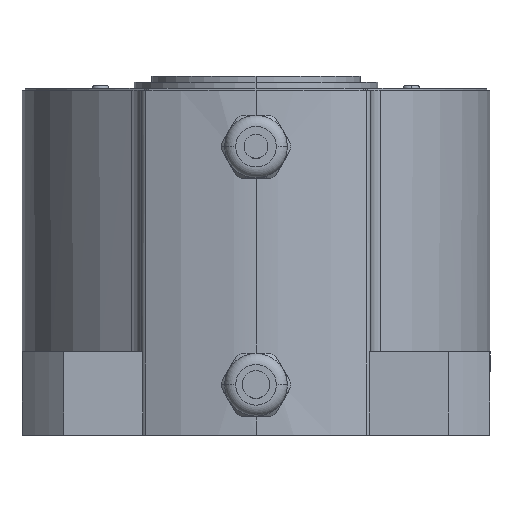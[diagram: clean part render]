
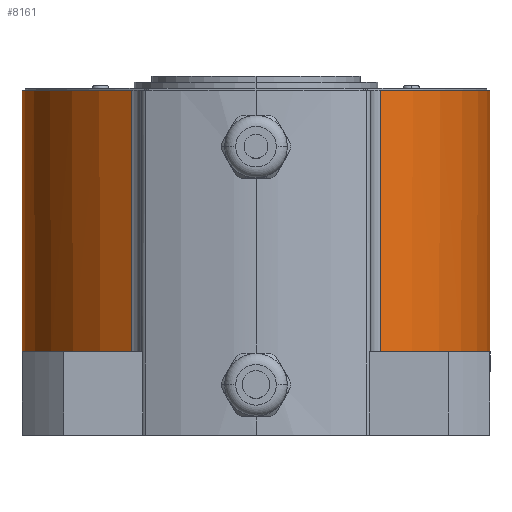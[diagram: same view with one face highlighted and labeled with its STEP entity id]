
A CAD part, top view. The second image highlights one B-rep face of the part: STEP entity #8161.
In plain terms, the highlighted cylindrical face has radius 56 mm (diameter 112 mm), a partial arc.
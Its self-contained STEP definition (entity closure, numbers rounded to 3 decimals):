
#259 = EDGE_CURVE ( 'NONE', #9772, #3744, #10680, .T. ) ;
#390 = DIRECTION ( 'NONE',  ( 0., -1., 0. ) ) ;
#748 = AXIS2_PLACEMENT_3D ( 'NONE', #9895, #11743, #20223 ) ;
#983 = DIRECTION ( 'NONE',  ( 0., 1., 0. ) ) ;
#2053 = DIRECTION ( 'NONE',  ( 0., 0., 1. ) ) ;
#3116 = ORIENTED_EDGE ( 'NONE', *, *, #7600, .T. ) ;
#3310 = DIRECTION ( 'NONE',  ( 0., 0., 1. ) ) ;
#3744 = VERTEX_POINT ( 'NONE', #19817 ) ;
#3971 = CARTESIAN_POINT ( 'NONE',  ( 29.836, 0., 47.39 ) ) ;
#4008 = ORIENTED_EDGE ( 'NONE', *, *, #16070, .T. ) ;
#5143 = AXIS2_PLACEMENT_3D ( 'NONE', #10750, #17754, #2053 ) ;
#5433 = CARTESIAN_POINT ( 'NONE',  ( -29.836, -62.5, 47.39 ) ) ;
#6477 = FACE_OUTER_BOUND ( 'NONE', #11400, .T. ) ;
#7016 = AXIS2_PLACEMENT_3D ( 'NONE', #8637, #21020, #21131 ) ;
#7600 = EDGE_CURVE ( 'NONE', #7922, #19711, #21225, .T. ) ;
#7875 = CARTESIAN_POINT ( 'NONE',  ( 56., -62.5, 0. ) ) ;
#7922 = VERTEX_POINT ( 'NONE', #12324 ) ;
#8059 = EDGE_CURVE ( 'NONE', #9772, #15572, #19419, .T. ) ;
#8161 = ADVANCED_FACE ( 'NONE', ( #6477 ), #10551, .T. ) ;
#8637 = CARTESIAN_POINT ( 'NONE',  ( 0., -62.5, 0. ) ) ;
#8670 = CARTESIAN_POINT ( 'NONE',  ( 0., -62.5, 0. ) ) ;
#9307 = DIRECTION ( 'NONE',  ( 0., 1., 0. ) ) ;
#9772 = VERTEX_POINT ( 'NONE', #3971 ) ;
#9895 = CARTESIAN_POINT ( 'NONE',  ( 0., -62.5, 0. ) ) ;
#10049 = EDGE_CURVE ( 'NONE', #13858, #15572, #15736, .T. ) ;
#10351 = CARTESIAN_POINT ( 'NONE',  ( -29.836, -62.5, 47.39 ) ) ;
#10369 = CARTESIAN_POINT ( 'NONE',  ( 0., -62.5, 0. ) ) ;
#10551 = CYLINDRICAL_SURFACE ( 'NONE', #748, 56. ) ;
#10589 = ORIENTED_EDGE ( 'NONE', *, *, #18576, .T. ) ;
#10680 = LINE ( 'NONE', #16178, #16938 ) ;
#10750 = CARTESIAN_POINT ( 'NONE',  ( 0., -62.5, 0. ) ) ;
#11137 = CIRCLE ( 'NONE', #21735, 56. ) ;
#11400 = EDGE_LOOP ( 'NONE', ( #16820, #17814, #12812, #4008, #3116, #10589, #21086 ) ) ;
#11743 = DIRECTION ( 'NONE',  ( 0., 1., 0. ) ) ;
#12324 = CARTESIAN_POINT ( 'NONE',  ( 0., -62.5, -56. ) ) ;
#12500 = CIRCLE ( 'NONE', #7016, 56. ) ;
#12812 = ORIENTED_EDGE ( 'NONE', *, *, #13832, .T. ) ;
#13832 = EDGE_CURVE ( 'NONE', #3744, #14643, #12500, .T. ) ;
#13858 = VERTEX_POINT ( 'NONE', #10351 ) ;
#13928 = AXIS2_PLACEMENT_3D ( 'NONE', #16216, #983, #18063 ) ;
#14643 = VERTEX_POINT ( 'NONE', #7875 ) ;
#14958 = CARTESIAN_POINT ( 'NONE',  ( -56., -62.5, 0. ) ) ;
#15572 = VERTEX_POINT ( 'NONE', #19235 ) ;
#15736 = LINE ( 'NONE', #5433, #22402 ) ;
#16070 = EDGE_CURVE ( 'NONE', #14643, #7922, #11137, .T. ) ;
#16178 = CARTESIAN_POINT ( 'NONE',  ( 29.836, -62.5, 47.39 ) ) ;
#16216 = CARTESIAN_POINT ( 'NONE',  ( 0., 0., 0. ) ) ;
#16820 = ORIENTED_EDGE ( 'NONE', *, *, #8059, .F. ) ;
#16938 = VECTOR ( 'NONE', #390, 1000. ) ;
#17019 = CIRCLE ( 'NONE', #20694, 56. ) ;
#17382 = DIRECTION ( 'NONE',  ( 0., 1., 0. ) ) ;
#17754 = DIRECTION ( 'NONE',  ( 0., 1., 0. ) ) ;
#17814 = ORIENTED_EDGE ( 'NONE', *, *, #259, .T. ) ;
#18063 = DIRECTION ( 'NONE',  ( 0., 0., 1. ) ) ;
#18576 = EDGE_CURVE ( 'NONE', #19711, #13858, #17019, .T. ) ;
#19235 = CARTESIAN_POINT ( 'NONE',  ( -29.836, 0., 47.39 ) ) ;
#19419 = CIRCLE ( 'NONE', #13928, 56. ) ;
#19711 = VERTEX_POINT ( 'NONE', #14958 ) ;
#19817 = CARTESIAN_POINT ( 'NONE',  ( 29.836, -62.5, 47.39 ) ) ;
#20223 = DIRECTION ( 'NONE',  ( 0., 0., 1. ) ) ;
#20471 = DIRECTION ( 'NONE',  ( 0., 0., 1. ) ) ;
#20694 = AXIS2_PLACEMENT_3D ( 'NONE', #8670, #22539, #3310 ) ;
#21020 = DIRECTION ( 'NONE',  ( 0., 1., 0. ) ) ;
#21086 = ORIENTED_EDGE ( 'NONE', *, *, #10049, .T. ) ;
#21131 = DIRECTION ( 'NONE',  ( 0., 0., 1. ) ) ;
#21225 = CIRCLE ( 'NONE', #5143, 56. ) ;
#21735 = AXIS2_PLACEMENT_3D ( 'NONE', #10369, #17382, #20471 ) ;
#22402 = VECTOR ( 'NONE', #9307, 1000. ) ;
#22539 = DIRECTION ( 'NONE',  ( 0., 1., 0. ) ) ;
